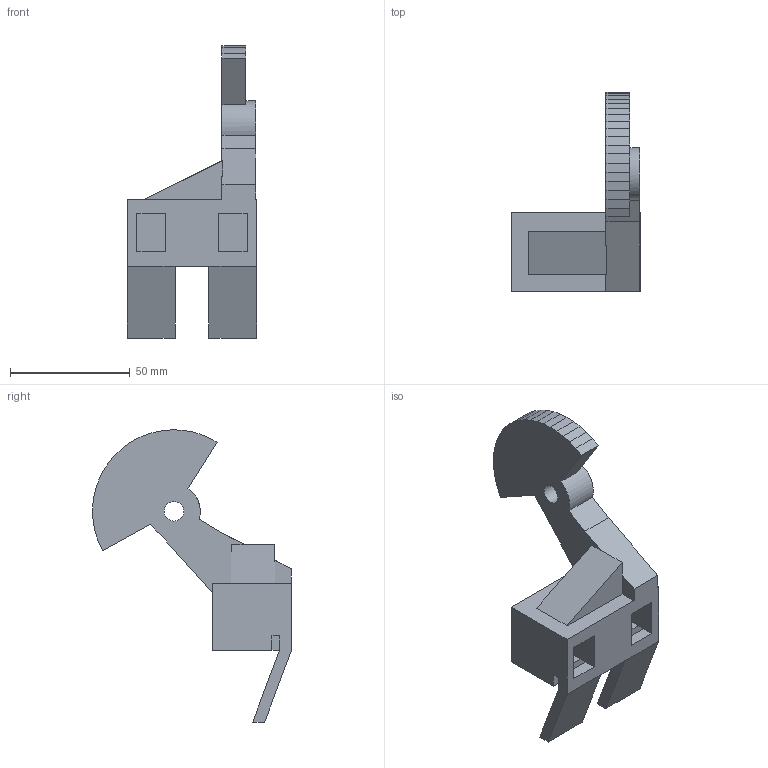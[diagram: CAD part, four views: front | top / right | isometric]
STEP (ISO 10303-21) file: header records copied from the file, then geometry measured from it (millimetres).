
FILE_DESCRIPTION(('Open CASCADE Model'),'2;1');
FILE_NAME('Open CASCADE Shape Model','2026-10-16T00:30:55',('Author'),( 'Open CASCADE'),'Open CASCADE STEP processor 7.9','Open CASCADE 7.9' ,'Unknown');
FILE_SCHEMA(('AUTOMOTIVE_DESIGN { 1 0 10303 214 1 1 1 1 }'));
Length unit declared in the file: millimetre
Products named in the file (1): Open CASCADE STEP translator 7.9 10
Bounding box: 54 x 82.96 x 122 mm (x, y, z)
Volume: 80000.8 mm3; surface area: 22556.2 mm2
Topology: 1 solids, 1 shells, 77 faces, 221 edges, 144 vertices
Faces by surface type: plane 75, cylinder 2
Full cylindrical faces by diameter (mm): 8.2 x1
Entity records: 5274 total; most frequent: CARTESIAN_POINT 1003, DIRECTION 727, LINE 557, VECTOR 557, ORIENTED_EDGE 442, PCURVE 442, DEFINITIONAL_REPRESENTATION 442, EDGE_CURVE 221
